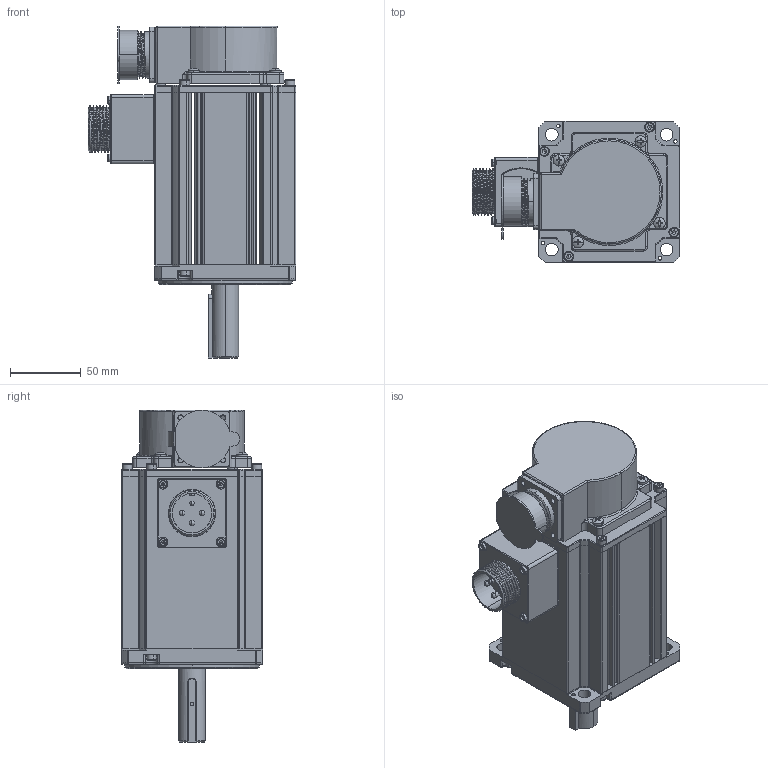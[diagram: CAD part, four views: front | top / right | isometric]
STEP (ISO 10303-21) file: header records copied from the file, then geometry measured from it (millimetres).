
FILE_DESCRIPTION (( 'STEP AP203' ), '1' );
FILE_NAME ('WF100ST-M06430GYA5-B1軞蚾-YD28粣19.STEP', '2024-01-30T08:52:58', ( 'lvbing' ), ( 'WG' ), 'SwSTEP 2.0', 'SolidWorks 2018', '' );
FILE_SCHEMA (( 'CONFIG_CONTROL_DESIGN' ));
Length unit declared in the file: millimetre
Products named in the file (2): WF100ST-M06430GYA5-B1軞蚾-YD28粣19
Bounding box: 147 x 100 x 235 mm (x, y, z)
Surface area: 131990.4 mm2 (no closed solid volume)
Topology: 0 solids, 54 shells, 983 faces, 2792 edges, 1820 vertices
Faces by surface type: cylinder 421, plane 326, torus 138, cone 49, bspline 31, sphere 18
Entity records: 34826 total; most frequent: CARTESIAN_POINT 9301, DIRECTION 5724, ORIENTED_EDGE 4727, EDGE_CURVE 2747, AXIS2_PLACEMENT_3D 2209, VERTEX_POINT 1812, VECTOR 1306, LINE 1306
